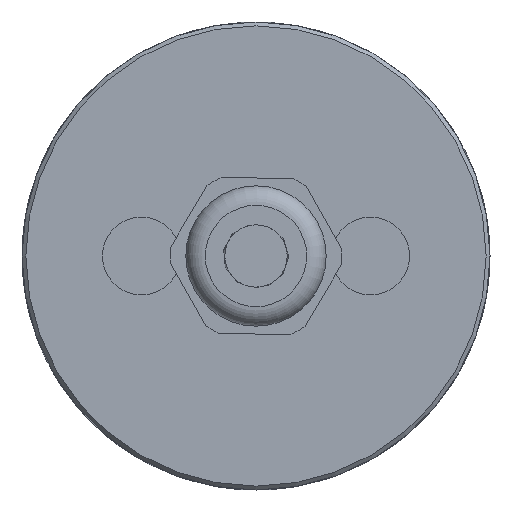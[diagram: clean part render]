
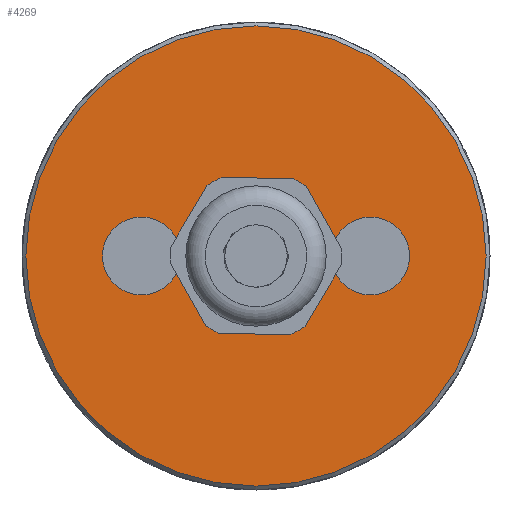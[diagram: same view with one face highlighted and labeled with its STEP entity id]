
A CAD part, left-side view. The second image highlights one B-rep face of the part: STEP entity #4269.
In plain terms, the highlighted planar face has unit normal (-1, 0, 0).
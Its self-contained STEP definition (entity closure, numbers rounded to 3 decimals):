
#1096=PLANE('',#2263);
#1341=VERTEX_POINT('',#4593);
#1342=VERTEX_POINT('',#4596);
#1343=VERTEX_POINT('',#4599);
#1399=VERTEX_POINT('',#5005);
#1627=DIRECTION('',(1.,0.,0.));
#1628=DIRECTION('',(0.,0.,5.));
#1631=DIRECTION('',(1.,0.,0.));
#1632=DIRECTION('',(0.,0.,5.));
#1635=DIRECTION('',(1.,0.,0.));
#1636=DIRECTION('',(0.,0.,7.188));
#1745=DIRECTION('',(1.,0.,0.));
#1746=DIRECTION('',(0.,0.,29.5));
#1747=DIRECTION('',(-1.,0.,0.));
#2212=AXIS2_PLACEMENT_3D('',#4592,#1627,#1628);
#2214=AXIS2_PLACEMENT_3D('',#4595,#1631,#1632);
#2216=AXIS2_PLACEMENT_3D('',#4598,#1635,#1636);
#2262=AXIS2_PLACEMENT_3D('',#5004,#1745,#1746);
#2263=AXIS2_PLACEMENT_3D('',#5006,#1747,$);
#2458=CIRCLE('',#2212,5.);
#2459=CIRCLE('',#2214,5.);
#2460=CIRCLE('',#2216,7.188);
#2480=CIRCLE('',#2262,29.5);
#2571=EDGE_CURVE('',#1341,#1341,#2458,.T.);
#2572=EDGE_CURVE('',#1342,#1342,#2459,.T.);
#2573=EDGE_CURVE('',#1343,#1343,#2460,.T.);
#2647=EDGE_CURVE('',#1399,#1399,#2480,.T.);
#3125=ORIENTED_EDGE('',*,*,#2571,.T.);
#3126=ORIENTED_EDGE('',*,*,#2572,.T.);
#3127=ORIENTED_EDGE('',*,*,#2573,.T.);
#3128=ORIENTED_EDGE('',*,*,#2647,.F.);
#3824=EDGE_LOOP('',(#3125));
#3825=EDGE_LOOP('',(#3126));
#3826=EDGE_LOOP('',(#3127));
#3827=EDGE_LOOP('',(#3128));
#4055=FACE_BOUND('',#3824,.T.);
#4056=FACE_BOUND('',#3825,.T.);
#4057=FACE_BOUND('',#3826,.T.);
#4058=FACE_BOUND('',#3827,.T.);
#4269=ADVANCED_FACE('',(#4055,#4056,#4057,#4058),#1096,.T.);
#4592=CARTESIAN_POINT('',(0.,-14.685,0.));
#4593=CARTESIAN_POINT('',(0.,-14.685,5.));
#4595=CARTESIAN_POINT('',(0.,14.685,0.));
#4596=CARTESIAN_POINT('',(0.,14.685,5.));
#4598=CARTESIAN_POINT('',(0.,0.,0.));
#4599=CARTESIAN_POINT('',(0.,0.,7.188));
#5004=CARTESIAN_POINT('',(0.,0.,0.));
#5005=CARTESIAN_POINT('',(0.,0.,-29.5));
#5006=CARTESIAN_POINT('',(0.,0.,-15.));
